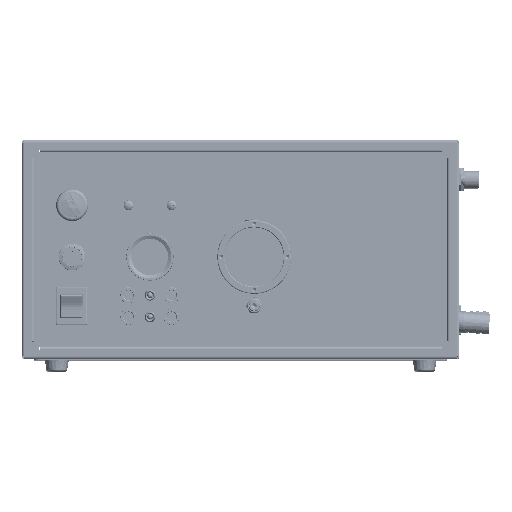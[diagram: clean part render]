
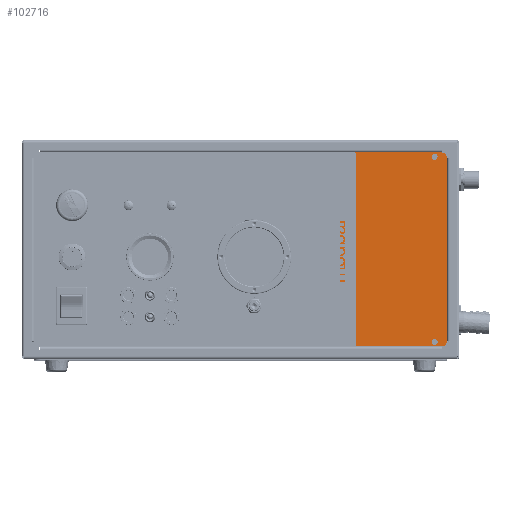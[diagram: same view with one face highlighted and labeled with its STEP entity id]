
A CAD part, top view. The second image highlights one B-rep face of the part: STEP entity #102716.
In plain terms, the highlighted planar face has unit normal (0, 0, 1).
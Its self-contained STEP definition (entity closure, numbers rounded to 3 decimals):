
#4090 = AXIS2_PLACEMENT_3D ( 'NONE', #135785, #36330, #84322 ) ;
#4328 = VERTEX_POINT ( 'NONE', #162400 ) ;
#4958 = DIRECTION ( 'NONE',  ( 1., 0., 0. ) ) ;
#6016 = CARTESIAN_POINT ( 'NONE',  ( 186.5, -85., 0. ) ) ;
#6449 = EDGE_CURVE ( 'NONE', #69856, #139586, #58505, .T. ) ;
#6477 = DIRECTION ( 'NONE',  ( 0., 0., 1. ) ) ;
#8942 = EDGE_CURVE ( 'NONE', #68892, #4328, #152722, .T. ) ;
#11669 = LINE ( 'NONE', #175254, #61034 ) ;
#11830 = ORIENTED_EDGE ( 'NONE', *, *, #6449, .F. ) ;
#12455 = CARTESIAN_POINT ( 'NONE',  ( 186.5, 90., 0. ) ) ;
#12573 = ORIENTED_EDGE ( 'NONE', *, *, #87972, .F. ) ;
#13462 = FACE_BOUND ( 'NONE', #170678, .T. ) ;
#14545 = CARTESIAN_POINT ( 'NONE',  ( 92.5, 90., 0. ) ) ;
#15471 = EDGE_CURVE ( 'NONE', #30220, #115150, #93126, .T. ) ;
#18519 = CARTESIAN_POINT ( 'NONE',  ( 92.5, -90., 0. ) ) ;
#19089 = VERTEX_POINT ( 'NONE', #19534 ) ;
#19534 = CARTESIAN_POINT ( 'NONE',  ( 99.75, 86., 0. ) ) ;
#22382 = CARTESIAN_POINT ( 'NONE',  ( 180., 86., 0. ) ) ;
#22576 = CIRCLE ( 'NONE', #4090, 2.75 ) ;
#24789 = VERTEX_POINT ( 'NONE', #165410 ) ;
#25724 = AXIS2_PLACEMENT_3D ( 'NONE', #190483, #73740, #124590 ) ;
#27064 = CARTESIAN_POINT ( 'NONE',  ( -191.5, -90., 0. ) ) ;
#29533 = ORIENTED_EDGE ( 'NONE', *, *, #178539, .T. ) ;
#30220 = VERTEX_POINT ( 'NONE', #18519 ) ;
#33028 = EDGE_CURVE ( 'NONE', #4328, #68892, #172217, .T. ) ;
#36330 = DIRECTION ( 'NONE',  ( 0., 0., 1. ) ) ;
#38979 = CARTESIAN_POINT ( 'NONE',  ( 102.5, 86., 0. ) ) ;
#39683 = DIRECTION ( 'NONE',  ( 1., 0., 0. ) ) ;
#43197 = CARTESIAN_POINT ( 'NONE',  ( 186.5, -90., 0. ) ) ;
#45383 = DIRECTION ( 'NONE',  ( 0., 0., 1. ) ) ;
#49777 = ORIENTED_EDGE ( 'NONE', *, *, #89484, .F. ) ;
#52684 = ORIENTED_EDGE ( 'NONE', *, *, #183785, .T. ) ;
#53256 = DIRECTION ( 'NONE',  ( 1., 0., 0. ) ) ;
#53577 = ORIENTED_EDGE ( 'NONE', *, *, #95940, .F. ) ;
#54211 = DIRECTION ( 'NONE',  ( 1., 0., 0. ) ) ;
#57499 = DIRECTION ( 'NONE',  ( 0., 0., 1. ) ) ;
#58505 = CIRCLE ( 'NONE', #125731, 2.75 ) ;
#61034 = VECTOR ( 'NONE', #90509, 1000. ) ;
#61721 = EDGE_CURVE ( 'NONE', #83947, #168564, #22576, .T. ) ;
#62284 = CARTESIAN_POINT ( 'NONE',  ( -191.5, 90., 0. ) ) ;
#67861 = CARTESIAN_POINT ( 'NONE',  ( 180., 86., 0. ) ) ;
#68892 = VERTEX_POINT ( 'NONE', #135347 ) ;
#69856 = VERTEX_POINT ( 'NONE', #209632 ) ;
#70077 = VERTEX_POINT ( 'NONE', #73870 ) ;
#70987 = CARTESIAN_POINT ( 'NONE',  ( 102.5, -86., 0. ) ) ;
#73304 = FACE_OUTER_BOUND ( 'NONE', #89731, .T. ) ;
#73740 = DIRECTION ( 'NONE',  ( 0., 0., 1. ) ) ;
#73870 = CARTESIAN_POINT ( 'NONE',  ( 191.5, 85., 0. ) ) ;
#74647 = EDGE_LOOP ( 'NONE', ( #53577, #49777 ) ) ;
#81354 = CARTESIAN_POINT ( 'NONE',  ( 0., 0., 0. ) ) ;
#81531 = CARTESIAN_POINT ( 'NONE',  ( 177.25, -86., 0. ) ) ;
#83947 = VERTEX_POINT ( 'NONE', #177884 ) ;
#84322 = DIRECTION ( 'NONE',  ( 1., 0., 0. ) ) ;
#84838 = VERTEX_POINT ( 'NONE', #12455 ) ;
#87722 = DIRECTION ( 'NONE',  ( 0., 0., 1. ) ) ;
#87809 = LINE ( 'NONE', #62284, #121604 ) ;
#87972 = EDGE_CURVE ( 'NONE', #139586, #69856, #180895, .T. ) ;
#89320 = DIRECTION ( 'NONE',  ( -1., 0., 0. ) ) ;
#89484 = EDGE_CURVE ( 'NONE', #19089, #24789, #169850, .T. ) ;
#89585 = DIRECTION ( 'NONE',  ( -1., 0., 0. ) ) ;
#89731 = EDGE_LOOP ( 'NONE', ( #143496, #111681, #169043, #52684, #141543, #29533 ) ) ;
#90337 = VECTOR ( 'NONE', #194321, 1000. ) ;
#90509 = DIRECTION ( 'NONE',  ( 0., 1., 0. ) ) ;
#91037 = CARTESIAN_POINT ( 'NONE',  ( 177.25, 86., 0. ) ) ;
#93126 = LINE ( 'NONE', #27064, #186481 ) ;
#95940 = EDGE_CURVE ( 'NONE', #24789, #19089, #97952, .T. ) ;
#97952 = CIRCLE ( 'NONE', #125862, 2.75 ) ;
#102716 = ADVANCED_FACE ( 'NONE', ( #151111, #153869, #107102, #13462, #73304 ), #214731, .F. ) ;
#107102 = FACE_BOUND ( 'NONE', #74647, .T. ) ;
#109614 = DIRECTION ( 'NONE',  ( -1., 0., 0. ) ) ;
#111681 = ORIENTED_EDGE ( 'NONE', *, *, #173552, .F. ) ;
#115150 = VERTEX_POINT ( 'NONE', #43197 ) ;
#115494 = DIRECTION ( 'NONE',  ( 0., 0., -1. ) ) ;
#121232 = DIRECTION ( 'NONE',  ( 0., 0., 1. ) ) ;
#121604 = VECTOR ( 'NONE', #109614, 1000. ) ;
#122581 = AXIS2_PLACEMENT_3D ( 'NONE', #6016, #57499, #89585 ) ;
#124207 = CARTESIAN_POINT ( 'NONE',  ( 191.5, -85., 0. ) ) ;
#124590 = DIRECTION ( 'NONE',  ( 1., 0., 0. ) ) ;
#125731 = AXIS2_PLACEMENT_3D ( 'NONE', #22382, #121232, #4958 ) ;
#125862 = AXIS2_PLACEMENT_3D ( 'NONE', #38979, #188428, #39683 ) ;
#129141 = CARTESIAN_POINT ( 'NONE',  ( 191.5, -90., 0. ) ) ;
#129397 = AXIS2_PLACEMENT_3D ( 'NONE', #70987, #87722, #54211 ) ;
#131975 = LINE ( 'NONE', #129141, #90337 ) ;
#132771 = CIRCLE ( 'NONE', #122581, 5. ) ;
#135347 = CARTESIAN_POINT ( 'NONE',  ( 105.25, -86., 0. ) ) ;
#135785 = CARTESIAN_POINT ( 'NONE',  ( 180., -86., 0. ) ) ;
#139586 = VERTEX_POINT ( 'NONE', #91037 ) ;
#141543 = ORIENTED_EDGE ( 'NONE', *, *, #178688, .T. ) ;
#142981 = VERTEX_POINT ( 'NONE', #14545 ) ;
#143496 = ORIENTED_EDGE ( 'NONE', *, *, #156419, .T. ) ;
#146497 = AXIS2_PLACEMENT_3D ( 'NONE', #81354, #115494, #196636 ) ;
#148309 = ORIENTED_EDGE ( 'NONE', *, *, #61721, .F. ) ;
#148548 = DIRECTION ( 'NONE',  ( 0., 0., 1. ) ) ;
#150556 = DIRECTION ( 'NONE',  ( 0., 0., 1. ) ) ;
#151111 = FACE_BOUND ( 'NONE', #213848, .T. ) ;
#152722 = CIRCLE ( 'NONE', #195587, 2.75 ) ;
#153869 = FACE_BOUND ( 'NONE', #165197, .T. ) ;
#154073 = ORIENTED_EDGE ( 'NONE', *, *, #33028, .F. ) ;
#156419 = EDGE_CURVE ( 'NONE', #84838, #142981, #87809, .T. ) ;
#159879 = DIRECTION ( 'NONE',  ( 1., 0., 0. ) ) ;
#160084 = DIRECTION ( 'NONE',  ( 1., 0., 0. ) ) ;
#162400 = CARTESIAN_POINT ( 'NONE',  ( 99.75, -86., 0. ) ) ;
#165197 = EDGE_LOOP ( 'NONE', ( #148309, #170706 ) ) ;
#165410 = CARTESIAN_POINT ( 'NONE',  ( 105.25, 86., 0. ) ) ;
#165928 = CARTESIAN_POINT ( 'NONE',  ( 102.5, -86., 0. ) ) ;
#168564 = VERTEX_POINT ( 'NONE', #81531 ) ;
#169043 = ORIENTED_EDGE ( 'NONE', *, *, #15471, .T. ) ;
#169850 = CIRCLE ( 'NONE', #190549, 2.75 ) ;
#170678 = EDGE_LOOP ( 'NONE', ( #172569, #154073 ) ) ;
#170706 = ORIENTED_EDGE ( 'NONE', *, *, #179095, .F. ) ;
#172217 = CIRCLE ( 'NONE', #129397, 2.75 ) ;
#172569 = ORIENTED_EDGE ( 'NONE', *, *, #8942, .F. ) ;
#173552 = EDGE_CURVE ( 'NONE', #30220, #142981, #11669, .T. ) ;
#175254 = CARTESIAN_POINT ( 'NONE',  ( 92.5, 90., 0. ) ) ;
#175777 = AXIS2_PLACEMENT_3D ( 'NONE', #188621, #6477, #89320 ) ;
#176036 = CIRCLE ( 'NONE', #175777, 5. ) ;
#177474 = CARTESIAN_POINT ( 'NONE',  ( 102.5, 86., 0. ) ) ;
#177884 = CARTESIAN_POINT ( 'NONE',  ( 182.75, -86., 0. ) ) ;
#178539 = EDGE_CURVE ( 'NONE', #70077, #84838, #176036, .T. ) ;
#178688 = EDGE_CURVE ( 'NONE', #207671, #70077, #131975, .T. ) ;
#179095 = EDGE_CURVE ( 'NONE', #168564, #83947, #209540, .T. ) ;
#180895 = CIRCLE ( 'NONE', #184810, 2.75 ) ;
#183785 = EDGE_CURVE ( 'NONE', #115150, #207671, #132771, .T. ) ;
#184810 = AXIS2_PLACEMENT_3D ( 'NONE', #67861, #150556, #53256 ) ;
#186481 = VECTOR ( 'NONE', #159879, 1000. ) ;
#188428 = DIRECTION ( 'NONE',  ( 0., 0., 1. ) ) ;
#188621 = CARTESIAN_POINT ( 'NONE',  ( 186.5, 85., 0. ) ) ;
#190483 = CARTESIAN_POINT ( 'NONE',  ( 180., -86., 0. ) ) ;
#190549 = AXIS2_PLACEMENT_3D ( 'NONE', #177474, #45383, #160084 ) ;
#194321 = DIRECTION ( 'NONE',  ( 0., 1., 0. ) ) ;
#195587 = AXIS2_PLACEMENT_3D ( 'NONE', #165928, #148548, #200004 ) ;
#196636 = DIRECTION ( 'NONE',  ( -1., 0., 0. ) ) ;
#200004 = DIRECTION ( 'NONE',  ( 1., 0., 0. ) ) ;
#207671 = VERTEX_POINT ( 'NONE', #124207 ) ;
#209540 = CIRCLE ( 'NONE', #25724, 2.75 ) ;
#209632 = CARTESIAN_POINT ( 'NONE',  ( 182.75, 86., 0. ) ) ;
#213848 = EDGE_LOOP ( 'NONE', ( #11830, #12573 ) ) ;
#214731 = PLANE ( 'NONE',  #146497 ) ;
